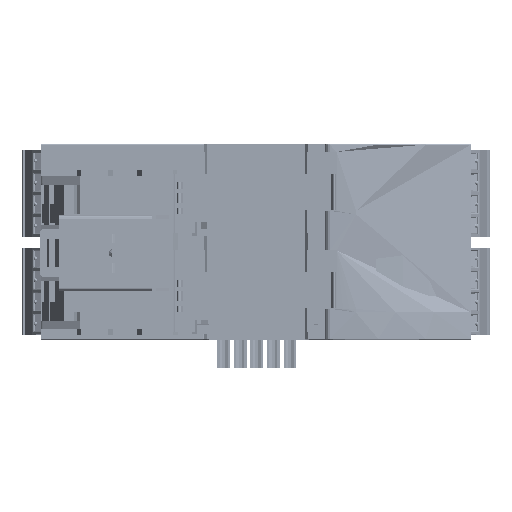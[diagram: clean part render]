
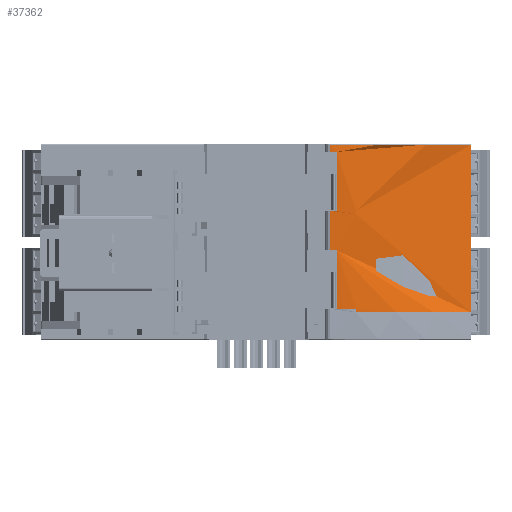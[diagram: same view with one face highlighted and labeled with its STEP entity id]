
A CAD part, top view. The second image highlights one B-rep face of the part: STEP entity #37362.
In plain terms, the highlighted cylindrical face has radius 77.596 mm (diameter 155.192 mm), a partial arc.
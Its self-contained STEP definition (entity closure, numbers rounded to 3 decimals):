
#37362=ADVANCED_FACE('',(#178477,#178479),#178481,.T.);
#178477=FACE_BOUND('',#178478,.T.);
#178478=EDGE_LOOP('',(#331564,#331565,#331566,#331567,#331568,#331569,#331570,#331571,
#331572,#331573,#331574,#331575));
#178479=FACE_BOUND('',#178480,.T.);
#178480=EDGE_LOOP('',(#331576,#331577,#331578,#331579));
#178481=CYLINDRICAL_SURFACE('',#178482,77.596);
#178482=AXIS2_PLACEMENT_3D('',#178483,#178484,#178485);
#178483=CARTESIAN_POINT('',(16.,0.,-77.596));
#178484=DIRECTION('',(0.,1.,0.));
#178485=DIRECTION('',(1.,0.,0.));
#331564=ORIENTED_EDGE('',*,*,#458225,.T.);
#331565=ORIENTED_EDGE('',*,*,#458192,.T.);
#331566=ORIENTED_EDGE('',*,*,#458178,.T.);
#331567=ORIENTED_EDGE('',*,*,#458224,.F.);
#331568=ORIENTED_EDGE('',*,*,#458226,.T.);
#331569=ORIENTED_EDGE('',*,*,#458227,.T.);
#331570=ORIENTED_EDGE('',*,*,#458228,.F.);
#331571=ORIENTED_EDGE('',*,*,#458229,.T.);
#331572=ORIENTED_EDGE('',*,*,#458230,.F.);
#331573=ORIENTED_EDGE('',*,*,#457801,.T.);
#331574=ORIENTED_EDGE('',*,*,#458231,.F.);
#331575=ORIENTED_EDGE('',*,*,#458232,.F.);
#331576=ORIENTED_EDGE('',*,*,#458167,.F.);
#331577=ORIENTED_EDGE('',*,*,#452994,.F.);
#331578=ORIENTED_EDGE('',*,*,#458218,.T.);
#331579=ORIENTED_EDGE('',*,*,#458233,.T.);
#452994=EDGE_CURVE('',#530695,#530693,#530697,.T.);
#457801=EDGE_CURVE('',#538342,#538340,#538343,.T.);
#458167=EDGE_CURVE('',#530693,#538874,#538875,.T.);
#458178=EDGE_CURVE('',#538891,#538889,#538892,.T.);
#458192=EDGE_CURVE('',#538915,#538891,#538916,.T.);
#458218=EDGE_CURVE('',#530695,#538957,#538959,.T.);
#458224=EDGE_CURVE('',#538967,#538889,#538969,.T.);
#458225=EDGE_CURVE('',#538970,#538915,#538971,.T.);
#458226=EDGE_CURVE('',#538967,#538972,#538973,.T.);
#458227=EDGE_CURVE('',#538972,#538974,#538975,.T.);
#458228=EDGE_CURVE('',#538976,#538974,#538977,.T.);
#458229=EDGE_CURVE('',#538976,#538978,#538979,.T.);
#458230=EDGE_CURVE('',#538342,#538978,#538980,.T.);
#458231=EDGE_CURVE('',#538981,#538340,#538982,.T.);
#458232=EDGE_CURVE('',#538970,#538981,#538983,.T.);
#458233=EDGE_CURVE('',#538957,#538874,#538984,.T.);
#530693=VERTEX_POINT('',#643169);
#530695=VERTEX_POINT('',#643173);
#530697=CIRCLE('',#643177,77.596);
#538340=VERTEX_POINT('',#664873);
#538342=VERTEX_POINT('',#664878);
#538343=CIRCLE('',#664879,77.596);
#538874=VERTEX_POINT('',#666317);
#538875=LINE('',#666318,#666319);
#538889=VERTEX_POINT('',#666352);
#538891=VERTEX_POINT('',#666356);
#538892=LINE('',#666357,#666358);
#538915=VERTEX_POINT('',#666408);
#538916=CIRCLE('',#666409,77.596);
#538957=VERTEX_POINT('',#666502);
#538959=LINE('',#666506,#666507);
#538967=VERTEX_POINT('',#666524);
#538969=CIRCLE('',#666529,77.596);
#538970=VERTEX_POINT('',#666533);
#538971=LINE('',#666534,#666535);
#538972=VERTEX_POINT('',#666537);
#538973=LINE('',#666538,#666539);
#538974=VERTEX_POINT('',#666541);
#538975=CIRCLE('',#666542,77.596);
#538976=VERTEX_POINT('',#666546);
#538977=LINE('',#666547,#666548);
#538978=VERTEX_POINT('',#666550);
#538979=CIRCLE('',#666551,77.596);
#538980=LINE('',#666555,#666556);
#538981=VERTEX_POINT('',#666558);
#538982=LINE('',#666559,#666560);
#538983=CIRCLE('',#666562,77.596);
#538984=CIRCLE('',#666566,77.596);
#643169=CARTESIAN_POINT('',(23.1,28.8,-0.326));
#643173=CARTESIAN_POINT('',(23.,28.8,-0.316));
#643177=AXIS2_PLACEMENT_3D('',#643178,#643179,#643180);
#643178=CARTESIAN_POINT('',(16.,28.8,-77.596));
#643179=DIRECTION('',(0.,1.,0.));
#643180=DIRECTION('',(0.09,0.,0.996));
#664873=CARTESIAN_POINT('',(49.587,6.2,-7.645));
#664878=CARTESIAN_POINT('',(23.1,6.2,-0.326));
#664879=AXIS2_PLACEMENT_3D('',#664880,#664881,#664882);
#664880=CARTESIAN_POINT('',(16.,6.2,-77.596));
#664881=DIRECTION('',(0.,1.,0.));
#664882=DIRECTION('',(0.091,0.,0.996));
#666317=CARTESIAN_POINT('',(23.1,29.6,-0.326));
#666318=CARTESIAN_POINT('',(23.1,28.8,-0.326));
#666319=VECTOR('',#666320,1.);
#666320=DIRECTION('',(0.,1.,0.));
#666352=CARTESIAN_POINT('',(18.6,29.6,-0.044));
#666356=CARTESIAN_POINT('',(18.6,43.2,-0.044));
#666357=CARTESIAN_POINT('',(18.6,43.2,-0.044));
#666358=VECTOR('',#666359,1.);
#666359=DIRECTION('',(0.,-1.,0.));
#666408=CARTESIAN_POINT('',(17.013,43.2,-0.007));
#666409=AXIS2_PLACEMENT_3D('',#666410,#666411,#666412);
#666410=CARTESIAN_POINT('',(16.,43.2,-77.596));
#666411=DIRECTION('',(0.,1.,0.));
#666412=DIRECTION('',(0.013,0.,1.));
#666502=CARTESIAN_POINT('',(23.,29.6,-0.316));
#666506=CARTESIAN_POINT('',(23.,28.8,-0.316));
#666507=VECTOR('',#666508,1.);
#666508=DIRECTION('',(0.,1.,0.));
#666524=CARTESIAN_POINT('',(17.013,29.6,-0.007));
#666529=AXIS2_PLACEMENT_3D('',#666530,#666531,#666532);
#666530=CARTESIAN_POINT('',(16.,29.6,-77.596));
#666531=DIRECTION('',(0.,1.,0.));
#666532=DIRECTION('',(0.013,0.,1.));
#666533=CARTESIAN_POINT('',(17.013,44.9,-0.007));
#666534=CARTESIAN_POINT('',(17.013,44.9,-0.007));
#666535=VECTOR('',#666536,1.);
#666536=DIRECTION('',(0.,-1.,0.));
#666537=CARTESIAN_POINT('',(17.013,20.5,-0.007));
#666538=CARTESIAN_POINT('',(17.013,29.6,-0.007));
#666539=VECTOR('',#666540,1.);
#666540=DIRECTION('',(0.,-1.,0.));
#666541=CARTESIAN_POINT('',(18.6,20.5,-0.044));
#666542=AXIS2_PLACEMENT_3D('',#666543,#666544,#666545);
#666543=CARTESIAN_POINT('',(16.,20.5,-77.596));
#666544=DIRECTION('',(0.,1.,0.));
#666545=DIRECTION('',(0.013,0.,1.));
#666546=CARTESIAN_POINT('',(18.6,7.,-0.044));
#666547=CARTESIAN_POINT('',(18.6,7.,-0.044));
#666548=VECTOR('',#666549,1.);
#666549=DIRECTION('',(0.,1.,0.));
#666550=CARTESIAN_POINT('',(23.1,7.,-0.326));
#666551=AXIS2_PLACEMENT_3D('',#666552,#666553,#666554);
#666552=CARTESIAN_POINT('',(16.,7.,-77.596));
#666553=DIRECTION('',(0.,1.,0.));
#666554=DIRECTION('',(0.034,0.,0.999));
#666555=CARTESIAN_POINT('',(23.1,6.2,-0.326));
#666556=VECTOR('',#666557,1.);
#666557=DIRECTION('',(0.,1.,0.));
#666558=CARTESIAN_POINT('',(49.587,44.9,-7.645));
#666559=CARTESIAN_POINT('',(49.587,44.9,-7.645));
#666560=VECTOR('',#666561,1.);
#666561=DIRECTION('',(0.,-1.,0.));
#666562=AXIS2_PLACEMENT_3D('',#666563,#666564,#666565);
#666563=CARTESIAN_POINT('',(16.,44.9,-77.596));
#666564=DIRECTION('',(0.,1.,0.));
#666565=DIRECTION('',(0.013,0.,1.));
#666566=AXIS2_PLACEMENT_3D('',#666567,#666568,#666569);
#666567=CARTESIAN_POINT('',(16.,29.6,-77.596));
#666568=DIRECTION('',(0.,1.,0.));
#666569=DIRECTION('',(0.09,0.,0.996));
